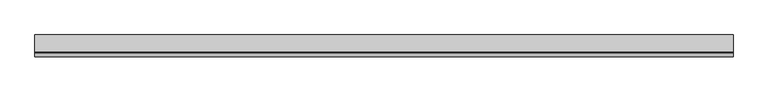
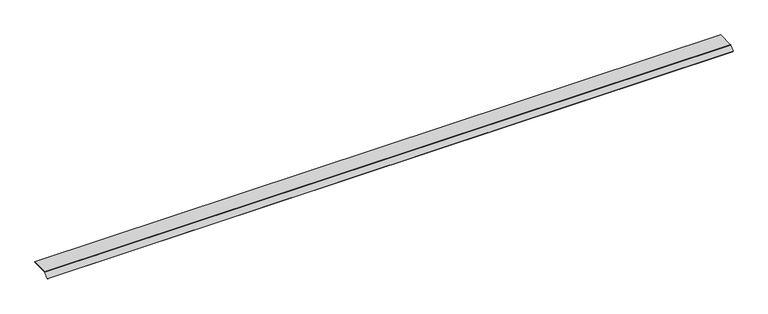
"""IFC4 building model written with IfcOpenShell, lengths in millimetres: proxy geometry, Electrical_Installation_Hager_Blank-Cover-800mm-Single-Sided-Height-40mm : Electrical_Installation_Hager_Blank-Cover-800mm-Single-Sided-Height-40mm."""

from ifc_helpers import new_model, si_unit, point, frame, frame_2d, origin, place, context, project, spatial, polyline, circle_curve, trimmed, segment, composite_curve, outline, extrude, source, transform, mapped, element, save


def electrical_fixtures_682a3526(model_context):
    return source(origin(), model_context, "Body", "SweptSolid", [
        extrude(outline(composite_curve([segment(polyline([(75.0, 25.5), (75.0, 22.5), (-74.8229541, 22.5)]), True, "CONTINUOUS"), segment(trimmed(circle_curve(frame_2d((-74.8229541, 21.0725733)), 1.4274267), [point((-74.8229541, 22.5))], [point((-75.8322972, 22.0819164))], True, "CARTESIAN"), True, "CONTINUOUS"), segment(polyline([(-75.8322972, 22.0819164), (-112.91729, -15.0030764), (-115.0386103, -12.8817561), (-77.8206472, 24.336207)]), True, "CONTINUOUS"), segment(trimmed(circle_curve(frame_2d((-75.0110025, 21.5265623)), 3.9734377), [point((-77.8206472, 24.336207))], [point((-75.0110025, 25.5))], False, "CARTESIAN"), True, "CONTINUOUS"), segment(polyline([(-75.0110025, 25.5), (75.0, 25.5)]), True, "CONTINUOUS")], self_intersect=False)), frame((0.0, 0.0, 0.0), z_axis=(1.0, 0.0, 0.0), x_axis=(0.0, 1.0, 0.0)), (0.0, 0.0, 1.0), 6008.6956759),
    ])


if __name__ == "__main__":
    model = new_model("IFC4")
    model_context = context("Model", 3, world=origin())
    ifc_project = project(units=[si_unit("LENGTHUNIT", "METRE", prefix="MILLI")], contexts=[model_context])
    site = spatial("IfcSite", under=ifc_project)
    building = spatial("IfcBuilding", under=site)
    placement = place(None, origin())
    electrical_fixtures_shape = electrical_fixtures_682a3526(model_context)
    element("IfcBuildingElementProxy", 1, Name="Electrical_Installation_Hager_Blank-Cover-800mm-Single-Sided-Height-40mm : Electrical_Installation_Hager_Blank-Cover-800mm-Single-Sided-Height-40mm", ObjectType="Electrical_Installation_Hager_Blank-Cover-800mm-Single-Sided-Height-40mm : Electrical_Installation_Hager_Blank-Cover-800mm-Single-Sided-Height-40mm", at=placement, inside=building, context=model_context, shape_type="MappedRepresentation", body=[
        mapped(electrical_fixtures_shape, transform((0.0, 0.0, 0.0), x_axis=(1.0, 0.0, 0.0), y_axis=(0.0, 1.0, 0.0), z_axis=(0.0, 0.0, 1.0))),
    ])
    save(model, "model.ifc")
